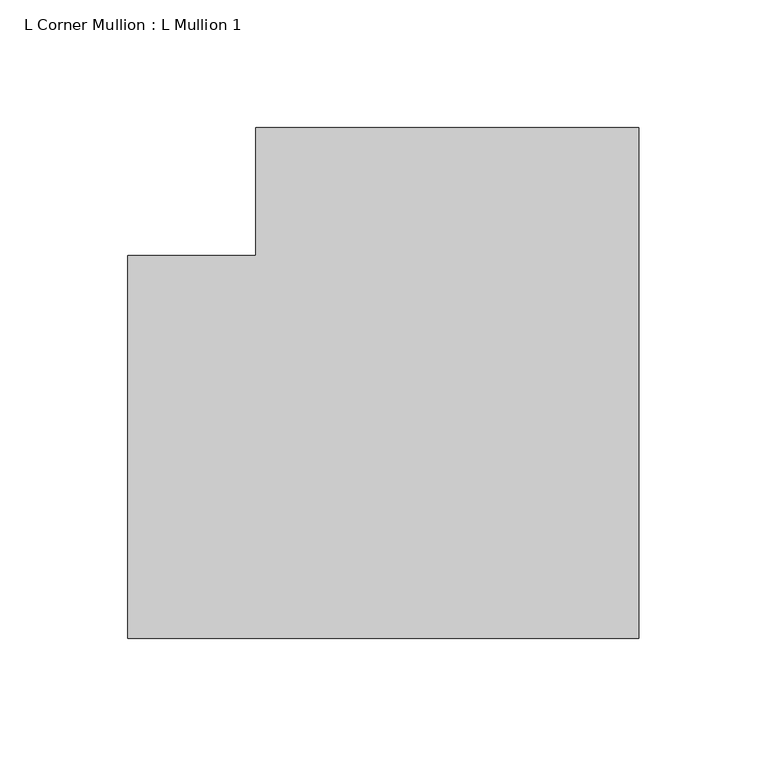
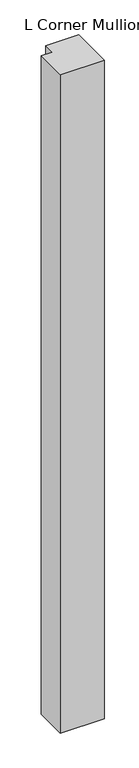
"""IFC4 building model written with IfcOpenShell, lengths in millimetres: member geometry, L Corner Mullion : L Mullion 1."""

from ifc_helpers import new_model, si_unit, frame, origin, place, context, project, spatial, polyline, outline, extrude, source, transform, mapped, element, save


def l_corner_mullion_l_mullion_1_b99bcffd(model_context):
    return source(origin(), model_context, "Body", "SweptSolid", [
        extrude(outline(polyline([(75.0, 125.0), (75.0, -75.0), (-125.0, -75.0), (-125.0, 75.0), (-75.0, 75.0), (-75.0, 125.0), (75.0, 125.0)])), frame((0.0, 0.0, -3175.0), z_axis=(0.0, 0.0, 1.0), x_axis=(1.0, 0.0, 0.0)), (0.0, 0.0, 1.0), 3175.0),
    ])


if __name__ == "__main__":
    model = new_model("IFC4")
    model_context = context("Model", 3, world=origin())
    ifc_project = project(units=[si_unit("LENGTHUNIT", "METRE", prefix="MILLI")], contexts=[model_context])
    site = spatial("IfcSite", under=ifc_project)
    building = spatial("IfcBuilding", under=site)
    placement = place(None, origin())
    l_corner_mullion_l_mullion_1_shape = l_corner_mullion_l_mullion_1_b99bcffd(model_context)
    element("IfcMember", 1, ObjectType="L Corner Mullion : L Mullion 1", at=placement, inside=building, context=model_context, shape_type="MappedRepresentation", body=[
        mapped(l_corner_mullion_l_mullion_1_shape, transform((0.0, 0.0, 0.0), x_axis=(1.0, 0.0, 0.0), y_axis=(0.0, 1.0, 0.0), z_axis=(0.0, 0.0, 1.0))),
    ])
    save(model, "model.ifc")
